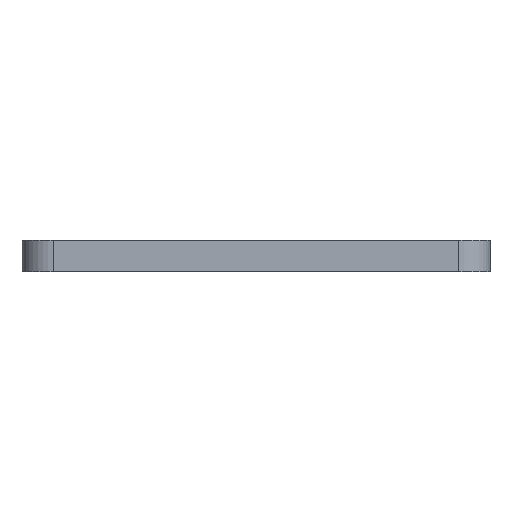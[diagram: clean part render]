
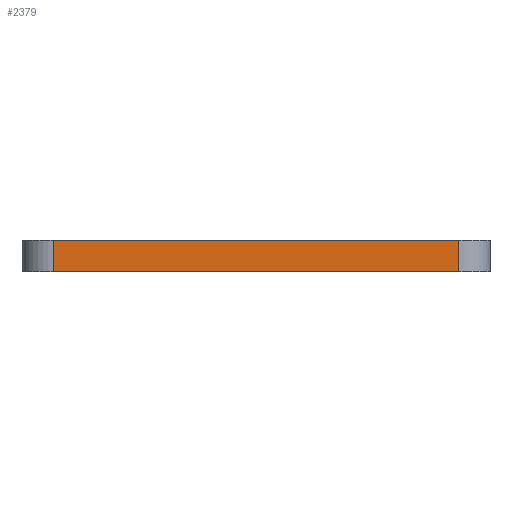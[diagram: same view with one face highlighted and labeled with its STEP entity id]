
A CAD part, left-side view. The second image highlights one B-rep face of the part: STEP entity #2379.
In plain terms, the highlighted planar face has unit normal (-1, 0, 0).
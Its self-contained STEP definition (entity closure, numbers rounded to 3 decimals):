
#1476=CARTESIAN_POINT('Vertex',(0.,-20.,20.)) ;
#1479=CARTESIAN_POINT('Line Origine',(0.,-150.,20.)) ;
#1483=CARTESIAN_POINT('Vertex',(0.,-280.,20.)) ;
#2337=CARTESIAN_POINT('Line Origine',(0.,-280.,10.)) ;
#2341=CARTESIAN_POINT('Vertex',(0.,-280.,0.)) ;
#2356=CARTESIAN_POINT('Axis2P3D Location',(0.,0.,0.)) ;
#2361=CARTESIAN_POINT('Line Origine',(0.,-20.,10.)) ;
#2365=CARTESIAN_POINT('Vertex',(0.,-20.,0.)) ;
#2368=CARTESIAN_POINT('Line Origine',(0.,-150.,0.)) ;
#1480=DIRECTION('Vector Direction',(0.,-1.,0.)) ;
#2338=DIRECTION('Vector Direction',(0.,0.,1.)) ;
#2357=DIRECTION('Axis2P3D Direction',(-1.,0.,0.)) ;
#2358=DIRECTION('Axis2P3D XDirection',(0.,-1.,0.)) ;
#2362=DIRECTION('Vector Direction',(0.,0.,1.)) ;
#2369=DIRECTION('Vector Direction',(0.,-1.,0.)) ;
#2359=AXIS2_PLACEMENT_3D('Plane Axis2P3D',#2356,#2357,#2358) ;
#2374=ORIENTED_EDGE('',*,*,#1485,.F.) ;
#2375=ORIENTED_EDGE('',*,*,#2367,.F.) ;
#2376=ORIENTED_EDGE('',*,*,#2372,.T.) ;
#2377=ORIENTED_EDGE('',*,*,#2343,.T.) ;
#1481=VECTOR('Line Direction',#1480,1.) ;
#2339=VECTOR('Line Direction',#2338,1.) ;
#2363=VECTOR('Line Direction',#2362,1.) ;
#2370=VECTOR('Line Direction',#2369,1.) ;
#2379=ADVANCED_FACE('\X2\96F64EF651E04F554F53\X0\',(#2378),#2360,.T.) ;
#1485=EDGE_CURVE('',#1477,#1484,#1482,.T.) ;
#2343=EDGE_CURVE('',#2342,#1484,#2340,.T.) ;
#2367=EDGE_CURVE('',#2366,#1477,#2364,.T.) ;
#2372=EDGE_CURVE('',#2366,#2342,#2371,.T.) ;
#2373=EDGE_LOOP('',(#2374,#2375,#2376,#2377)) ;
#2378=FACE_OUTER_BOUND('',#2373,.T.) ;
#1482=LINE('Line',#1479,#1481) ;
#2340=LINE('Line',#2337,#2339) ;
#2364=LINE('Line',#2361,#2363) ;
#2371=LINE('Line',#2368,#2370) ;
#2360=PLANE('Plane',#2359) ;
#1477=VERTEX_POINT('',#1476) ;
#1484=VERTEX_POINT('',#1483) ;
#2342=VERTEX_POINT('',#2341) ;
#2366=VERTEX_POINT('',#2365) ;
